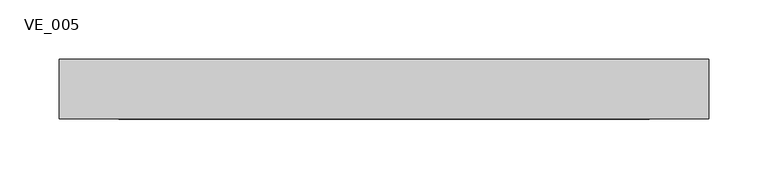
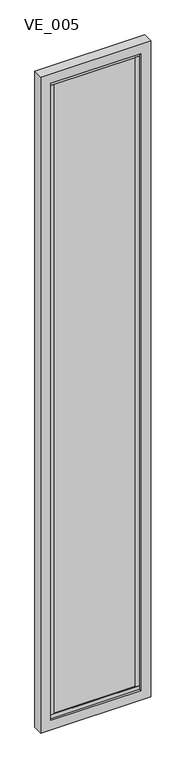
"""IFC4 building model written with IfcOpenShell, lengths in millimetres: plate geometry, TRP_CP_ARC_PF_RE : VE_005."""

from ifc_helpers import new_model, si_unit, frame, origin, place, context, project, spatial, polyline, outline, extrude, source, transform, mapped, element, save


def ve_005_d4007ce6(model_context):
    return source(origin(), model_context, "Body", "SweptSolid", [
        extrude(outline(polyline([(203.4519689, -10.0), (-203.4519689, -10.0), (-203.4519689, 10.0), (203.4519689, 10.0), (203.4519689, -10.0)])), frame((0.0, 0.0, 70.0), z_axis=(0.0, 0.0, 1.0), x_axis=(1.0, 0.0, 0.0)), (0.0, 0.0, 1.0), 3310.0),
        extrude(outline(polyline([(223.4519689, -15.0), (203.4519689, -15.0), (203.4519689, 15.0), (223.4519689, 15.0), (223.4519689, -15.0)])), frame((0.0, 0.0, 70.0), z_axis=(0.0, 0.0, 1.0), x_axis=(1.0, 0.0, 0.0)), (0.0, 0.0, 1.0), 3310.0),
        extrude(outline(polyline([(-203.4519689, -15.0), (-223.4519689, -15.0), (-223.4519689, 15.0), (-203.4519689, 15.0), (-203.4519689, -15.0)])), frame((0.0, 0.0, 70.0), z_axis=(0.0, 0.0, 1.0), x_axis=(1.0, 0.0, 0.0)), (0.0, 0.0, 1.0), 3310.0),
        extrude(outline(polyline([(223.4519689, -15.0), (-223.4519689, -15.0), (-223.4519689, 15.0), (223.4519689, 15.0), (223.4519689, -15.0)])), frame((0.0, 0.0, 50.0), z_axis=(0.0, 0.0, 1.0), x_axis=(1.0, 0.0, 0.0)), (0.0, 0.0, 1.0), 20.0),
        extrude(outline(polyline([(223.4519689, -15.0), (-223.4519689, -15.0), (-223.4519689, 15.0), (223.4519689, 15.0), (223.4519689, -15.0)])), frame((0.0, 0.0, 3380.0), z_axis=(0.0, 0.0, 1.0), x_axis=(1.0, 0.0, 0.0)), (0.0, 0.0, 1.0), 20.0),
        extrude(outline(polyline([(3450.0, 273.4519689), (3450.0, -273.4519689), (0.0, -273.4519689), (0.0, 273.4519689), (3450.0, 273.4519689)]), holes=[polyline([(50.0, 223.4519689), (50.0, -223.4519689), (3400.0, -223.4519689), (3400.0, 223.4519689), (50.0, 223.4519689)])]), frame((0.0, -25.0, 0.0), z_axis=(0.0, 1.0, 0.0), x_axis=(0.0, 0.0, 1.0)), (0.0, 0.0, 1.0), 50.0),
    ])


if __name__ == "__main__":
    model = new_model("IFC4")
    model_context = context("Model", 3, world=origin())
    ifc_project = project(units=[si_unit("LENGTHUNIT", "METRE", prefix="MILLI")], contexts=[model_context])
    site = spatial("IfcSite", under=ifc_project)
    building = spatial("IfcBuilding", under=site)
    placement = place(None, origin())
    ve_005_shape = ve_005_d4007ce6(model_context)
    element("IfcPlate", 1, ObjectType="TRP_CP_ARC_PF_RE : VE_005", at=placement, inside=building, context=model_context, shape_type="MappedRepresentation", body=[
        mapped(ve_005_shape, transform((0.0, 0.0, 0.0), x_axis=(1.0, 0.0, 0.0), y_axis=(0.0, 1.0, 0.0), z_axis=(0.0, 0.0, 1.0))),
    ])
    save(model, "model.ifc")
